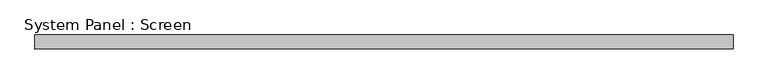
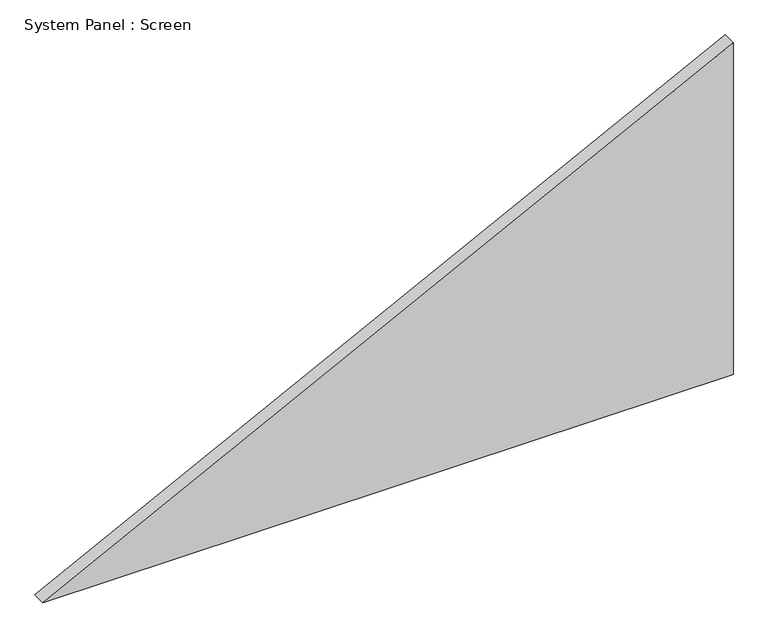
"""IFC4 building model written with IfcOpenShell, lengths in millimetres: plate geometry, System Panel : Screen."""

from ifc_helpers import new_model, si_unit, frame, origin, place, context, project, spatial, polyline, outline, extrude, source, transform, mapped, element, save


def system_panel_screen_efeee9d3(model_context):
    return source(origin(), model_context, "Body", "SweptSolid", [
        extrude(outline(polyline([(0.0, -631.962344), (0.0, 631.962344), (642.4744418, 631.962344), (0.0, -631.962344)])), frame((0.0, -12.7, 0.0), z_axis=(0.0, 1.0, 0.0), x_axis=(0.0, 0.0, 1.0)), (0.0, 0.0, 1.0), 25.4),
    ])


if __name__ == "__main__":
    model = new_model("IFC4")
    model_context = context("Model", 3, world=origin())
    ifc_project = project(units=[si_unit("LENGTHUNIT", "METRE", prefix="MILLI")], contexts=[model_context])
    site = spatial("IfcSite", under=ifc_project)
    building = spatial("IfcBuilding", under=site)
    placement = place(None, origin())
    system_panel_screen_shape = system_panel_screen_efeee9d3(model_context)
    element("IfcPlate", 1, ObjectType="System Panel : Screen", at=placement, inside=building, context=model_context, shape_type="MappedRepresentation", body=[
        mapped(system_panel_screen_shape, transform((0.0, 0.0, 0.0), x_axis=(1.0, 0.0, 0.0), y_axis=(0.0, 1.0, 0.0), z_axis=(0.0, 0.0, 1.0))),
    ])
    save(model, "model.ifc")
